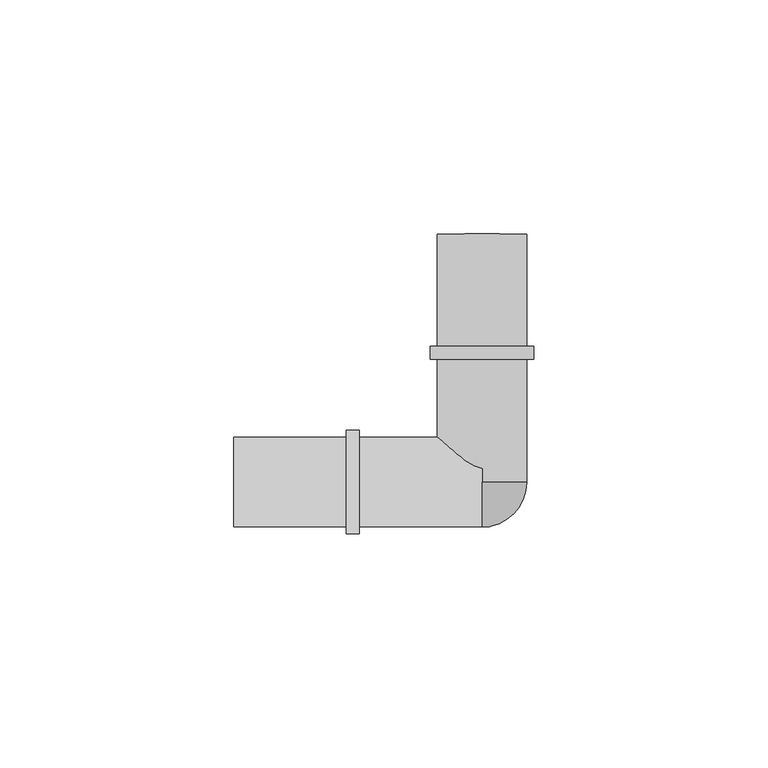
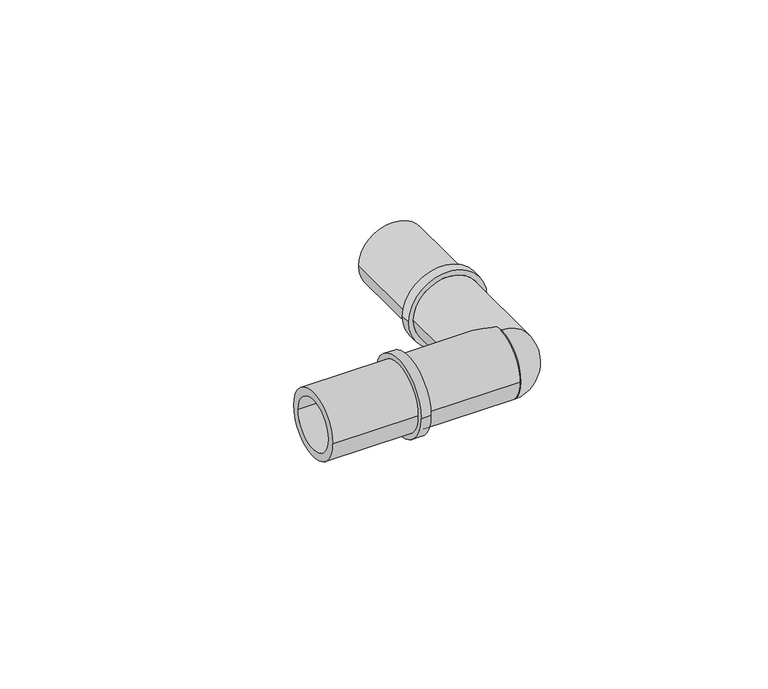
"""IFC4 building model written with IfcOpenShell, lengths in millimetres: pipe fitting geometry, FASTLOC_Corner LX : FSL C LX PL."""

import ifcopenshell
import ifcopenshell.guid

model = None  # the IFC model being written
_history = None  # IfcOwnerHistory: only IFC2X3 demands one
_inside = {}  # id of a spatial element -> (the spatial element, [elements in it])
_under = {}  # id of a project, library or spatial element -> (it, [spatial elements below it])
_declared = {}  # id of a project -> (the project, [libraries it declares])
_typed = {}  # id of a type object -> (the type object, [elements of that type])
_made_of = {}  # id of a material, layer set ... -> (it, [elements and type objects made of it])


def new_model(schema):
    """Start an empty IFC model of exactly this schema.

    Asked for "IFC4X3", IfcOpenShell would pick the latest addendum, in which some entities
    have other attributes; the version numbers below select the first issue.
    IFC2X3 requires an IfcOwnerHistory on every rooted entity: one is made here for all.
    """
    global model, _history
    if schema == "IFC4X3":
        model = ifcopenshell.file(schema_version=(4, 3, 0, 0))
    else:
        model = ifcopenshell.file(schema=schema)
    _inside.clear()
    _under.clear()
    _declared.clear()
    _typed.clear()
    _made_of.clear()
    _history = None
    if model.schema == "IFC2X3":
        org = make("IfcOrganization", Name="unknown")
        user = make(
            "IfcPersonAndOrganization",
            ThePerson=make("IfcPerson", FamilyName="unknown"),
            TheOrganization=org,
        )
        app = make(
            "IfcApplication",
            ApplicationDeveloper=org,
            Version="unknown",
            ApplicationFullName="unknown",
            ApplicationIdentifier="unknown",
        )
        _history = make(
            "IfcOwnerHistory",
            OwningUser=user,
            OwningApplication=app,
            ChangeAction="ADDED",
            CreationDate=0,
        )
    return model


def make(cls, **values):
    """One entity of the class cls with the attributes given. An attribute that is None is left unset."""
    return model.create_entity(
        cls, **{name: value for name, value in values.items() if value is not None}
    )


def rooted(cls, **values):
    """An entity with a GlobalId (a new one), such as an element, a storey or a relation."""
    return make(cls, GlobalId=ifcopenshell.guid.new(), OwnerHistory=_history, **values)


def si_unit(unit_type, name, prefix=None):
    """IfcSIUnit, for example si_unit("LENGTHUNIT", "METRE", prefix="MILLI")."""
    return make("IfcSIUnit", UnitType=unit_type, Prefix=prefix, Name=name)


def assignment(units):
    """IfcUnitAssignment: the units of a project."""
    return None if units is None else make("IfcUnitAssignment", Units=units)


def point(xyz):
    """IfcCartesianPoint."""
    return None if xyz is None else make("IfcCartesianPoint", Coordinates=xyz)


def direction(xyz):
    """IfcDirection."""
    return None if xyz is None else make("IfcDirection", DirectionRatios=xyz)


def frame(location, z_axis=None, x_axis=None):
    """IfcAxis2Placement3D, a coordinate frame: its origin and axes. An axis left out is left unset."""
    return make(
        "IfcAxis2Placement3D",
        Location=point(location),
        Axis=direction(z_axis),
        RefDirection=direction(x_axis),
    )


def origin():
    """The frame at (0, 0, 0) with its axes left unset."""
    return frame((0.0, 0.0, 0.0))


def place(relative_to, where):
    """IfcLocalPlacement: puts the frame where relative to a parent placement (None: the world)."""
    return make(
        "IfcLocalPlacement", PlacementRelTo=relative_to, RelativePlacement=where
    )


def context(
    kind, dimensions, precision=None, world=None, true_north=None, identifier=None
):
    """IfcGeometricRepresentationContext, for example the 3D "Model" context."""
    return make(
        "IfcGeometricRepresentationContext",
        ContextIdentifier=identifier,
        ContextType=kind,
        CoordinateSpaceDimension=dimensions,
        Precision=precision,
        WorldCoordinateSystem=world,
        TrueNorth=true_north,
    )


def project(units=None, contexts=None):
    """IfcProject with its units and contexts."""
    return rooted(
        "IfcProject",
        Name="project",
        RepresentationContexts=contexts,
        UnitsInContext=assignment(units),
    )


def spatial(cls, under=None, at=None, **own):
    """A site, building, storey or space (cls), placed at a placement, below another one or the project."""
    s = rooted(cls, ObjectPlacement=at, **own)
    if under is not None:
        _under.setdefault(under.id(), (under, []))[1].append(s)
    return s


def polyline(points):
    """IfcPolyline through the points."""
    return make("IfcPolyline", Points=[point(p) for p in points])


def circle_curve(where, radius):
    """IfcCircle in the frame where."""
    return make("IfcCircle", Position=where, Radius=radius)


def ellipse_curve(where, semi_axis1, semi_axis2):
    """IfcEllipse in the frame where."""
    return make(
        "IfcEllipse", Position=where, SemiAxis1=semi_axis1, SemiAxis2=semi_axis2
    )


def trimmed(basis, trim1, trim2, sense, master):
    """IfcTrimmedCurve: the piece of a basis curve between two trims."""
    return make(
        "IfcTrimmedCurve",
        BasisCurve=basis,
        Trim1=trim1,
        Trim2=trim2,
        SenseAgreement=sense,
        MasterRepresentation=master,
    )


def shape(context_of_items, identifier, shape_type, items):
    """IfcShapeRepresentation: the items that make up one representation, for example the "Body"."""
    return make(
        "IfcShapeRepresentation",
        ContextOfItems=context_of_items,
        RepresentationIdentifier=identifier,
        RepresentationType=shape_type,
        Items=items,
    )


def source(mapping_origin, context_of_items, identifier, shape_type, items):
    """IfcRepresentationMap: a shape defined once, which mapped items show again and again."""
    return make(
        "IfcRepresentationMap",
        MappingOrigin=mapping_origin,
        MappedRepresentation=shape(context_of_items, identifier, shape_type, items),
    )


def transform(
    local_origin,
    x_axis=None,
    y_axis=None,
    z_axis=None,
    scale=None,
    scale2=None,
    scale3=None,
    uniform=True,
):
    """IfcCartesianTransformationOperator3D, or its non-uniform kind. x_axis, y_axis, z_axis: its Axis1, 2, 3."""
    if uniform:
        return make(
            "IfcCartesianTransformationOperator3D",
            Axis1=direction(x_axis),
            Axis2=direction(y_axis),
            LocalOrigin=point(local_origin),
            Scale=scale,
            Axis3=direction(z_axis),
        )
    return make(
        "IfcCartesianTransformationOperator3DnonUniform",
        Axis1=direction(x_axis),
        Axis2=direction(y_axis),
        LocalOrigin=point(local_origin),
        Scale=scale,
        Axis3=direction(z_axis),
        Scale2=scale2,
        Scale3=scale3,
    )


def mapped(mapping_source, mapping_target):
    """IfcMappedItem: shows the shape of a source again, moved by a transform."""
    return make(
        "IfcMappedItem", MappingSource=mapping_source, MappingTarget=mapping_target
    )


def made_of(thing, what):
    """Note that an element or type object is made of a material, layer set ...; save() writes the relation."""
    if what is not None:
        _made_of.setdefault(what.id(), (what, []))[1].append(thing)
    return thing


def element(
    cls,
    number,
    at=None,
    inside=None,
    cuts=None,
    type_object=None,
    material=None,
    context=None,
    identifier="Body",
    shape_type=None,
    held_by="IfcProductDefinitionShape",
    body=None,
    shapes=None,
    **own,
):
    """One element of the class cls, such as IfcWall. Its Tag is "e" and its number.

    at: its placement. inside: the storey or other place that contains it. cuts: it is an
    opening in that element (IfcRelVoidsElement). A single representation is given by context,
    identifier, shape_type and body (its items); several are given by shapes. held_by: the class
    of the entity that holds the representations. save() writes the other relations.
    """
    e = rooted(cls, Tag="e%d" % number, ObjectPlacement=at, **own)
    if body is not None:
        shapes = [shape(context, identifier, shape_type, body)]
    if shapes is not None:
        e.Representation = make(held_by, Representations=shapes)
    if inside is not None:
        _inside.setdefault(inside.id(), (inside, []))[1].append(e)
    if cuts is not None:
        rooted(
            "IfcRelVoidsElement", RelatingBuildingElement=cuts, RelatedOpeningElement=e
        )
    if type_object is not None:
        _typed.setdefault(type_object.id(), (type_object, []))[1].append(e)
    return made_of(e, material)


def aggregate(whole, parts):
    """IfcRelAggregates: a whole, such as a stair, and the parts it consists of."""
    return rooted("IfcRelAggregates", RelatingObject=whole, RelatedObjects=parts)


def save(model, path):
    """Write the relations noted so far, then the file.

    IfcRelAggregates (storeys below a building ...), IfcRelContainedInSpatialStructure (elements
    in a storey), IfcRelDefinesByType, IfcRelAssociatesMaterial and IfcRelDeclares: one each for
    every whole, place, type object, material and project.
    """
    for whole, parts in _under.values():
        aggregate(whole, parts)
    for where, things in _inside.values():
        rooted(
            "IfcRelContainedInSpatialStructure",
            RelatedElements=things,
            RelatingStructure=where,
        )
    for kind, things in _typed.values():
        rooted("IfcRelDefinesByType", RelatedObjects=things, RelatingType=kind)
    for what, things in _made_of.values():
        rooted("IfcRelAssociatesMaterial", RelatedObjects=things, RelatingMaterial=what)
    for by, libraries in _declared.values():
        rooted("IfcRelDeclares", RelatingContext=by, RelatedDefinitions=libraries)
    model.write(path)


def plane_surface(at):
    """IfcPlane: the flat surface through the origin of the frame at, square to its z axis."""
    return make("IfcPlane", Position=at)


def cylinder_surface(at, radius):
    """IfcCylindricalSurface: all points at the distance radius from the z axis of the frame at."""
    return make("IfcCylindricalSurface", Position=at, Radius=radius)


def revolved_surface(curve, axis_point, axis_direction):
    """IfcSurfaceOfRevolution: the curve turned about the line through axis_point along axis_direction."""
    return make(
        "IfcSurfaceOfRevolution",
        SweptCurve=make("IfcArbitraryOpenProfileDef", ProfileType="CURVE", Curve=curve),
        AxisPosition=make("IfcAxis1Placement", Location=point(axis_point), Axis=direction(axis_direction)),
    )


def advanced_brep(points, edges, surfaces, faces):
    """IfcAdvancedBrep: a solid bounded by faces that lie on surfaces and meet in shared edges.

    An edge is (start, end): straight between two places in points (the first is 0);
    or (start, end, curve); or (start, end, curve, False) where it runs against its curve.
    A face is (place in surfaces, loops), or (place, loops, False) where it looks against
    its surface's normal. A loop lists edges by number (the first is 1), with a minus sign
    where the edge is run from its end to its start. The first loop is the outer one.
    """
    corners = [point(p) for p in points]
    vertices = [make("IfcVertexPoint", VertexGeometry=c) for c in corners]
    made = []
    for start, end, *more in edges:
        made.append(
            make(
                "IfcEdgeCurve",
                EdgeStart=vertices[start],
                EdgeEnd=vertices[end],
                EdgeGeometry=more[0] if more else make("IfcPolyline", Points=[corners[start], corners[end]]),
                SameSense=more[1] if len(more) > 1 else True,
            )
        )
    hull = []
    for where, loops, *sense in faces:
        bounds = []
        for j, loop in enumerate(loops):
            ring = [make("IfcOrientedEdge", EdgeElement=made[abs(k) - 1], Orientation=k > 0) for k in loop]
            bounds.append(
                make(
                    "IfcFaceOuterBound" if j == 0 else "IfcFaceBound",
                    Bound=make("IfcEdgeLoop", EdgeList=ring),
                    Orientation=True,
                )
            )
        hull.append(make("IfcAdvancedFace", Bounds=bounds, FaceSurface=surfaces[where], SameSense=sense[0] if sense else True))
    return make("IfcAdvancedBrep", Outer=make("IfcClosedShell", CfsFaces=hull))


def pipe_fitting_3262be86(model_context):
    return source(origin(), model_context, "Body", "AdvancedBrep", [
        advanced_brep(
        [(0.0, 0.0, 9.6), (0.0, 0.0, 0.0), (0.0, -9.6, 0.0), (0.0, 0.0, -9.6)],
        [
            (0, 1),
            (1, 2),
            (2, 0, circle_curve(frame((0.0, 0.0, 0.0), z_axis=(-1.0, 0.0, 0.0), x_axis=(0.0, 0.0, 1.0)), 9.6)),
            (3, 2, circle_curve(frame((0.0, 0.0, 0.0), z_axis=(-1.0, 0.0, 0.0), x_axis=(0.0, 0.0, -1.0)), 9.6)),
            (1, 3),
            (0, 3, circle_curve(frame((0.0, 0.0, 0.0), z_axis=(0.0, 1.0, 0.0), x_axis=(0.0, 0.0, 1.0)), 9.6)),
        ],
        [
            plane_surface(frame((0.0, 0.0, 0.0), z_axis=(-1.0, 0.0, 0.0), x_axis=(0.0, 0.0, 1.0))),
            plane_surface(frame((0.0, 0.0, 0.0), z_axis=(-1.0, 0.0, 0.0), x_axis=(0.0, 0.0, -1.0))),
            plane_surface(frame((0.0, 0.0, 0.0), z_axis=(0.0, 1.0, 0.0), x_axis=(0.0, 0.0, 1.0))),
            revolved_surface(trimmed(ellipse_curve(frame((0.0, 0.0, 0.0), z_axis=(-1.0, 0.0, 0.0), x_axis=(0.0, 0.0, 1.0)), 9.6, 9.6), [point((0.0, -9.6, 0.0))], [point((0.0, 0.0, 9.6))], True, "CARTESIAN"), (0.0, 0.0, 0.0), (0.0, 1.0, 0.0)),
        ],
        [
            (0, [[1, 2, 3]]),
            (1, [[4, -2, 5]]),
            (2, [[-1, 6, -5]]),
            (3, [[-6, -3, -4]]),
        ],
    ),
        advanced_brep(
        [(-53.0, 7.35, 0.0), (-53.0, -7.35, 0.0), (0.0, -7.35, 0.0), (0.0, 7.35, 0.0), (-29.0, 9.6, 0.0), (-29.0, -9.6, 0.0), (-53.0, -9.6, 0.0), (-53.0, 9.6, 0.0), (-26.2, 11.1, 0.0), (-26.2, -11.1, 0.0), (-29.0, -11.1, 0.0), (-29.0, 11.1, 0.0), (0.0, 9.6, 0.0), (0.0, -9.6, 0.0), (-26.2, -9.6, 0.0), (-26.2, 9.6, 0.0)],
        [
            (0, 1, circle_curve(frame((-53.0, 0.0, 0.0), z_axis=(-1.0, 0.0, 0.0), x_axis=(0.0, -1.0, 0.0)), 7.35)),
            (1, 2),
            (2, 3, circle_curve(frame((0.0, 0.0, 0.0), z_axis=(1.0, 0.0, 0.0), x_axis=(0.0, -1.0, 0.0)), 7.35)),
            (3, 0),
            (4, 5, circle_curve(frame((-29.0, 0.0, 0.0), z_axis=(-1.0, 0.0, 0.0), x_axis=(0.0, -1.0, 0.0)), 9.6)),
            (5, 6),
            (6, 7, circle_curve(frame((-53.0, 0.0, 0.0), z_axis=(1.0, 0.0, 0.0), x_axis=(0.0, -1.0, 0.0)), 9.6)),
            (7, 4),
            (8, 9, circle_curve(frame((-26.2, 0.0, 0.0), z_axis=(-1.0, 0.0, 0.0), x_axis=(0.0, -1.0, 0.0)), 11.1)),
            (9, 10),
            (10, 11, circle_curve(frame((-29.0, 0.0, 0.0), z_axis=(1.0, 0.0, 0.0), x_axis=(0.0, -1.0, 0.0)), 11.1)),
            (11, 8),
            (12, 13, circle_curve(frame((0.0, 0.0, 0.0), z_axis=(-1.0, 0.0, 0.0), x_axis=(0.0, -1.0, 0.0)), 9.6)),
            (13, 14),
            (14, 15, circle_curve(frame((-26.2, 0.0, 0.0), z_axis=(1.0, 0.0, 0.0), x_axis=(0.0, -1.0, 0.0)), 9.6)),
            (15, 12),
            (1, 0, circle_curve(frame((-53.0, 0.0, 0.0), z_axis=(-1.0, 0.0, 0.0), x_axis=(0.0, 1.0, 0.0)), 7.35)),
            (3, 2, circle_curve(frame((0.0, 0.0, 0.0), z_axis=(1.0, 0.0, 0.0), x_axis=(0.0, 1.0, 0.0)), 7.35)),
            (6, 7, circle_curve(frame((-53.0, 0.0, 0.0), z_axis=(-1.0, 0.0, 0.0), x_axis=(0.0, 1.0, 0.0)), 9.6)),
            (5, 4, circle_curve(frame((-29.0, 0.0, 0.0), z_axis=(-1.0, 0.0, 0.0), x_axis=(0.0, 1.0, 0.0)), 9.6)),
            (10, 11, circle_curve(frame((-29.0, 0.0, 0.0), z_axis=(-1.0, 0.0, 0.0), x_axis=(0.0, 1.0, 0.0)), 11.1)),
            (9, 8, circle_curve(frame((-26.2, 0.0, 0.0), z_axis=(-1.0, 0.0, 0.0), x_axis=(0.0, 1.0, 0.0)), 11.1)),
            (14, 15, circle_curve(frame((-26.2, 0.0, 0.0), z_axis=(-1.0, 0.0, 0.0), x_axis=(0.0, 1.0, 0.0)), 9.6)),
            (13, 12, circle_curve(frame((0.0, 0.0, 0.0), z_axis=(-1.0, 0.0, 0.0), x_axis=(0.0, 1.0, 0.0)), 9.6)),
        ],
        [
            revolved_surface(polyline([(0.0, -7.35, 0.0), (-53.0, -7.35, 0.0)]), (0.0, 0.0, 0.0), (1.0, 0.0, 0.0)),
            cylinder_surface(frame((0.0, 0.0, 0.0), z_axis=(1.0, 0.0, 0.0), x_axis=(0.0, -1.0, 0.0)), 9.6),
            cylinder_surface(frame((0.0, 0.0, 0.0), z_axis=(1.0, 0.0, 0.0), x_axis=(0.0, -1.0, 0.0)), 11.1),
            revolved_surface(polyline([(0.0, 7.35, 0.0), (-53.0, 7.35, 0.0)]), (0.0, 0.0, 0.0), (1.0, 0.0, 0.0)),
            plane_surface(frame((-53.0, 0.0, 0.0), z_axis=(-1.0, 0.0, 0.0), x_axis=(0.0, 1.0, 0.0))),
            cylinder_surface(frame((0.0, 0.0, 0.0), z_axis=(1.0, 0.0, 0.0), x_axis=(0.0, 1.0, 0.0)), 9.6),
            plane_surface(frame((-29.0, 0.0, 0.0), z_axis=(-1.0, 0.0, 0.0), x_axis=(0.0, 1.0, 0.0))),
            cylinder_surface(frame((0.0, 0.0, 0.0), z_axis=(1.0, 0.0, 0.0), x_axis=(0.0, 1.0, 0.0)), 11.1),
            plane_surface(frame((-26.2, 0.0, 0.0), z_axis=(1.0, 0.0, 0.0), x_axis=(0.0, 1.0, 0.0))),
            plane_surface(frame((0.0, 0.0, 0.0), z_axis=(1.0, 0.0, 0.0), x_axis=(0.0, 1.0, 0.0))),
        ],
        [
            (0, [[1, 2, 3, 4]]),
            (1, [[5, 6, 7, 8]]),
            (2, [[9, 10, 11, 12]]),
            (1, [[13, 14, 15, 16]]),
            (3, [[17, -4, 18, -2]]),
            (4, [[19, -7], [-17, -1]]),
            (5, [[20, -8, -19, -6]]),
            (6, [[21, -11], [-20, -5]]),
            (7, [[22, -12, -21, -10]]),
            (8, [[-22, -9], [23, -15]]),
            (5, [[24, -16, -23, -14]]),
            (9, [[-24, -13], [-18, -3]]),
        ],
    ),
        advanced_brep(
        [(7.35, 53.0, 0.0), (-7.35, 53.0, 0.0), (-7.35, 0.0, 0.0), (7.35, 0.0, 0.0), (9.6, 29.0, 0.0), (-9.6, 29.0, 0.0), (-9.6, 53.0, 0.0), (9.6, 53.0, 0.0), (11.1, 26.2, 0.0), (-11.1, 26.2, 0.0), (-11.1, 29.0, 0.0), (11.1, 29.0, 0.0), (9.6, 0.0, 0.0), (-9.6, 0.0, 0.0), (-9.6, 26.2, 0.0), (9.6, 26.2, 0.0)],
        [
            (0, 1, circle_curve(frame((0.0, 53.0, 0.0), z_axis=(0.0, 1.0, 0.0), x_axis=(-1.0, 0.0, 0.0)), 7.35)),
            (1, 2),
            (2, 3, circle_curve(frame((0.0, 0.0, 0.0), z_axis=(0.0, -1.0, 0.0), x_axis=(-1.0, 0.0, 0.0)), 7.35)),
            (3, 0),
            (4, 5, circle_curve(frame((0.0, 29.0, 0.0), z_axis=(0.0, 1.0, 0.0), x_axis=(-1.0, 0.0, 0.0)), 9.6)),
            (5, 6),
            (6, 7, circle_curve(frame((0.0, 53.0, 0.0), z_axis=(0.0, -1.0, 0.0), x_axis=(-1.0, 0.0, 0.0)), 9.6)),
            (7, 4),
            (8, 9, circle_curve(frame((0.0, 26.2, 0.0), z_axis=(0.0, 1.0, 0.0), x_axis=(-1.0, 0.0, 0.0)), 11.1)),
            (9, 10),
            (10, 11, circle_curve(frame((0.0, 29.0, 0.0), z_axis=(0.0, -1.0, 0.0), x_axis=(-1.0, 0.0, 0.0)), 11.1)),
            (11, 8),
            (12, 13, circle_curve(frame((0.0, 0.0, 0.0), z_axis=(0.0, 1.0, 0.0), x_axis=(-1.0, 0.0, 0.0)), 9.6)),
            (13, 14),
            (14, 15, circle_curve(frame((0.0, 26.2, 0.0), z_axis=(0.0, -1.0, 0.0), x_axis=(-1.0, 0.0, 0.0)), 9.6)),
            (15, 12),
            (1, 0, circle_curve(frame((0.0, 53.0, 0.0), z_axis=(0.0, 1.0, 0.0), x_axis=(1.0, 0.0, 0.0)), 7.35)),
            (3, 2, circle_curve(frame((0.0, 0.0, 0.0), z_axis=(0.0, -1.0, 0.0), x_axis=(1.0, 0.0, 0.0)), 7.35)),
            (6, 7, circle_curve(frame((0.0, 53.0, 0.0), z_axis=(0.0, 1.0, 0.0), x_axis=(1.0, 0.0, 0.0)), 9.6)),
            (5, 4, circle_curve(frame((0.0, 29.0, 0.0), z_axis=(0.0, 1.0, 0.0), x_axis=(1.0, 0.0, 0.0)), 9.6)),
            (10, 11, circle_curve(frame((0.0, 29.0, 0.0), z_axis=(0.0, 1.0, 0.0), x_axis=(1.0, 0.0, 0.0)), 11.1)),
            (9, 8, circle_curve(frame((0.0, 26.2, 0.0), z_axis=(0.0, 1.0, 0.0), x_axis=(1.0, 0.0, 0.0)), 11.1)),
            (14, 15, circle_curve(frame((0.0, 26.2, 0.0), z_axis=(0.0, 1.0, 0.0), x_axis=(1.0, 0.0, 0.0)), 9.6)),
            (13, 12, circle_curve(frame((0.0, 0.0, 0.0), z_axis=(0.0, 1.0, 0.0), x_axis=(1.0, 0.0, 0.0)), 9.6)),
        ],
        [
            revolved_surface(polyline([(-7.35, 0.0, 0.0), (-7.35, 53.0, 0.0)]), (0.0, 0.0, 0.0), (0.0, -1.0, 0.0)),
            cylinder_surface(frame((0.0, 0.0, 0.0), z_axis=(0.0, -1.0, 0.0), x_axis=(-1.0, 0.0, 0.0)), 9.6),
            cylinder_surface(frame((0.0, 0.0, 0.0), z_axis=(0.0, -1.0, 0.0), x_axis=(-1.0, 0.0, 0.0)), 11.1),
            revolved_surface(polyline([(7.35, 0.0, 0.0), (7.35, 53.0, 0.0)]), (0.0, 0.0, 0.0), (0.0, -1.0, 0.0)),
            plane_surface(frame((0.0, 53.0, 0.0), z_axis=(0.0, 1.0, 0.0), x_axis=(1.0, 0.0, 0.0))),
            cylinder_surface(frame((0.0, 0.0, 0.0), z_axis=(0.0, -1.0, 0.0), x_axis=(1.0, 0.0, 0.0)), 9.6),
            plane_surface(frame((0.0, 29.0, 0.0), z_axis=(0.0, 1.0, 0.0), x_axis=(1.0, 0.0, 0.0))),
            cylinder_surface(frame((0.0, 0.0, 0.0), z_axis=(0.0, -1.0, 0.0), x_axis=(1.0, 0.0, 0.0)), 11.1),
            plane_surface(frame((0.0, 26.2, 0.0), z_axis=(0.0, -1.0, 0.0), x_axis=(1.0, 0.0, 0.0))),
            plane_surface(frame((0.0, 0.0, 0.0), z_axis=(0.0, -1.0, 0.0), x_axis=(1.0, 0.0, 0.0))),
        ],
        [
            (0, [[1, 2, 3, 4]]),
            (1, [[5, 6, 7, 8]]),
            (2, [[9, 10, 11, 12]]),
            (1, [[13, 14, 15, 16]]),
            (3, [[17, -4, 18, -2]]),
            (4, [[19, -7], [-17, -1]]),
            (5, [[20, -8, -19, -6]]),
            (6, [[21, -11], [-20, -5]]),
            (7, [[22, -12, -21, -10]]),
            (8, [[-22, -9], [23, -15]]),
            (5, [[24, -16, -23, -14]]),
            (9, [[-24, -13], [-18, -3]]),
        ],
    ),
    ])


if __name__ == "__main__":
    model = new_model("IFC4")
    model_context = context("Model", 3, world=origin())
    ifc_project = project(units=[si_unit("LENGTHUNIT", "METRE", prefix="MILLI")], contexts=[model_context])
    site = spatial("IfcSite", under=ifc_project)
    building = spatial("IfcBuilding", under=site)
    placement = place(None, origin())
    pipe_fitting_shape = pipe_fitting_3262be86(model_context)
    element("IfcPipeFitting", 1, ObjectType="FASTLOC_Corner LX : FSL C LX PL", at=placement, inside=building, context=model_context, shape_type="MappedRepresentation", body=[
        mapped(pipe_fitting_shape, transform((0.0, 0.0, 0.0), x_axis=(1.0, 0.0, 0.0), y_axis=(0.0, 1.0, 0.0), z_axis=(0.0, 0.0, 1.0))),
    ])
    save(model, "model.ifc")
